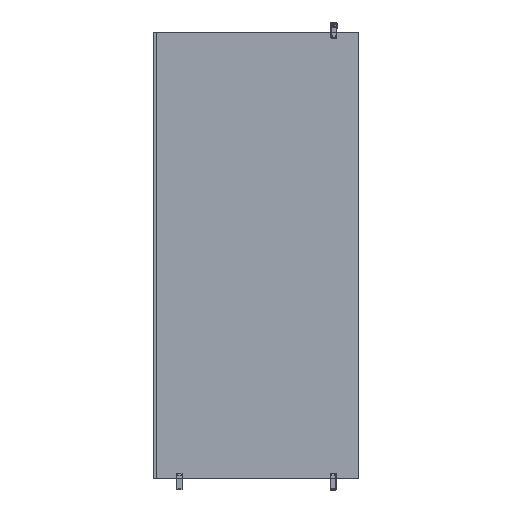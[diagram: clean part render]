
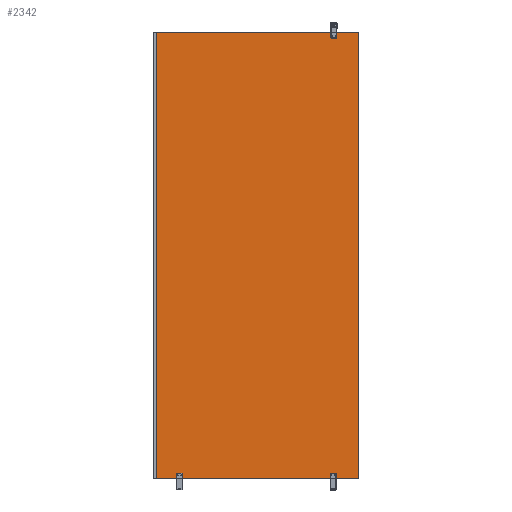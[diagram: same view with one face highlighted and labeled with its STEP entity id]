
A CAD part, left-side view. The second image highlights one B-rep face of the part: STEP entity #2342.
In plain terms, the highlighted planar face has unit normal (-1, 0, 0) as drawn and (0, 1, 0) by its records, which use the part's own axes.
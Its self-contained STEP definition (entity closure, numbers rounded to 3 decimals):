
#425=FACE_OUTER_BOUND($,#586,.T.);
#586=EDGE_LOOP($,(#1935,#1936,#1937,#1938));
#784=LINE($,#3837,#982);
#785=LINE($,#3840,#983);
#786=LINE($,#3842,#984);
#787=LINE($,#3843,#985);
#982=VECTOR($,#3108,1950.);
#983=VECTOR($,#3111,897.);
#984=VECTOR($,#3112,897.);
#985=VECTOR($,#3113,1950.);
#1182=VERTEX_POINT($,#3830);
#1185=VERTEX_POINT($,#3835);
#1186=VERTEX_POINT($,#3839);
#1187=VERTEX_POINT($,#3841);
#1447=EDGE_CURVE($,#1182,#1185,#784,.T.);
#1448=EDGE_CURVE($,#1186,#1182,#785,.T.);
#1449=EDGE_CURVE($,#1187,#1185,#786,.T.);
#1450=EDGE_CURVE($,#1186,#1187,#787,.T.);
#1935=ORIENTED_EDGE($,*,*,#1448,.T.);
#1936=ORIENTED_EDGE($,*,*,#1447,.T.);
#1937=ORIENTED_EDGE($,*,*,#1449,.F.);
#1938=ORIENTED_EDGE($,*,*,#1450,.F.);
#2232=PLANE($,#2567);
#2342=ADVANCED_FACE($,(#425),#2232,.T.);
#2567=AXIS2_PLACEMENT_3D($,#3838,#3109,#3110);
#3108=DIRECTION($,(0.,0.,1.));
#3109=DIRECTION('center_axis',(0.,1.,0.));
#3110=DIRECTION('ref_axis',(-1.,0.,0.));
#3111=DIRECTION($,(-1.,0.,0.));
#3112=DIRECTION($,(-1.,0.,0.));
#3113=DIRECTION($,(0.,0.,1.));
#3830=CARTESIAN_POINT('',(0.,10.,0.));
#3835=CARTESIAN_POINT('',(0.,10.,1950.));
#3837=CARTESIAN_POINT($,(0.,10.,0.));
#3838=CARTESIAN_POINT('Origin',(897.,10.,0.));
#3839=CARTESIAN_POINT('',(897.,10.,0.));
#3840=CARTESIAN_POINT($,(897.,10.,0.));
#3841=CARTESIAN_POINT('',(897.,10.,1950.));
#3842=CARTESIAN_POINT($,(897.,10.,1950.));
#3843=CARTESIAN_POINT($,(897.,10.,0.));
